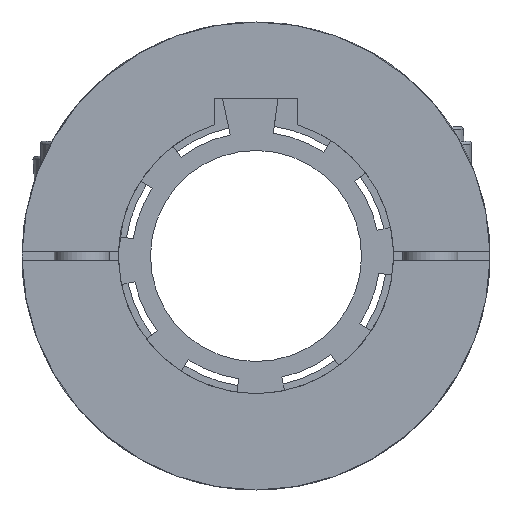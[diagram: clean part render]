
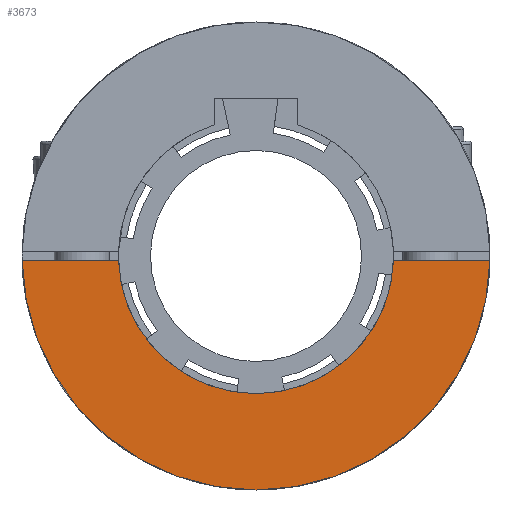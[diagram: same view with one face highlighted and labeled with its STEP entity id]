
A CAD part, left-side view. The second image highlights one B-rep face of the part: STEP entity #3673.
In plain terms, the highlighted planar face has unit normal (-1, 0, 0).
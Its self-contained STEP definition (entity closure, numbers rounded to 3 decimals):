
#184=PLANE('',#4102);
#363=FACE_OUTER_BOUND('',#577,.T.);
#577=EDGE_LOOP('',(#3169,#3170,#3171,#3172));
#891=LINE('',#6309,#1216);
#894=LINE('',#6319,#1219);
#1216=VECTOR('',#5033,1000.);
#1219=VECTOR('',#5042,1000.);
#1435=CIRCLE('',#4077,30.);
#1448=CIRCLE('',#4103,51.);
#1746=VERTEX_POINT('',#6232);
#1747=VERTEX_POINT('',#6233);
#1772=VERTEX_POINT('',#6308);
#1776=VERTEX_POINT('',#6318);
#2224=EDGE_CURVE('',#1746,#1747,#1435,.T.);
#2262=EDGE_CURVE('',#1746,#1772,#891,.T.);
#2267=EDGE_CURVE('',#1776,#1747,#894,.T.);
#2268=EDGE_CURVE('',#1776,#1772,#1448,.T.);
#3169=ORIENTED_EDGE('',*,*,#2224,.T.);
#3170=ORIENTED_EDGE('',*,*,#2267,.F.);
#3171=ORIENTED_EDGE('',*,*,#2268,.T.);
#3172=ORIENTED_EDGE('',*,*,#2262,.F.);
#3673=ADVANCED_FACE('',(#363),#184,.F.);
#4077=AXIS2_PLACEMENT_3D('',#6234,#4960,#4961);
#4102=AXIS2_PLACEMENT_3D('',#6317,#5040,#5041);
#4103=AXIS2_PLACEMENT_3D('',#6320,#5043,#5044);
#4960=DIRECTION('center_axis',(1.,0.,0.));
#4961=DIRECTION('ref_axis',(0.,0.,1.));
#5033=DIRECTION('',(0.,-1.,0.));
#5040=DIRECTION('center_axis',(1.,0.,0.));
#5041=DIRECTION('ref_axis',(0.,0.,-1.));
#5042=DIRECTION('',(0.,-1.,0.));
#5043=DIRECTION('center_axis',(-1.,0.,0.));
#5044=DIRECTION('ref_axis',(0.,-1.,0.));
#6232=CARTESIAN_POINT('',(0.,-29.983,-1.));
#6233=CARTESIAN_POINT('',(0.,29.983,-1.));
#6234=CARTESIAN_POINT('Origin',(0.,0.,0.));
#6308=CARTESIAN_POINT('',(0.,-50.99,-1.));
#6309=CARTESIAN_POINT('',(0.,57.148,-1.));
#6317=CARTESIAN_POINT('Origin',(0.,0.,51.));
#6318=CARTESIAN_POINT('',(0.,50.99,-1.));
#6319=CARTESIAN_POINT('',(0.,57.148,-1.));
#6320=CARTESIAN_POINT('Origin',(0.,0.,0.));
